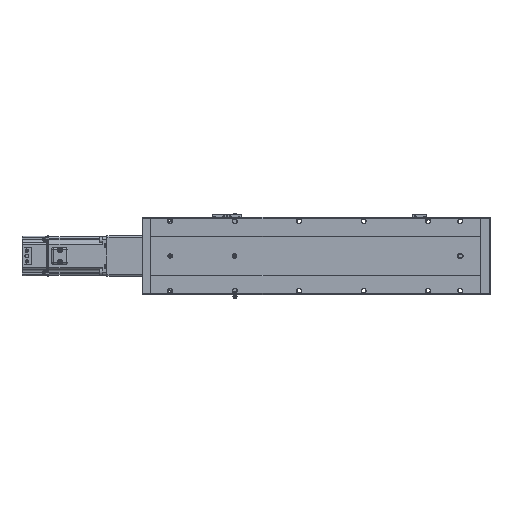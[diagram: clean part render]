
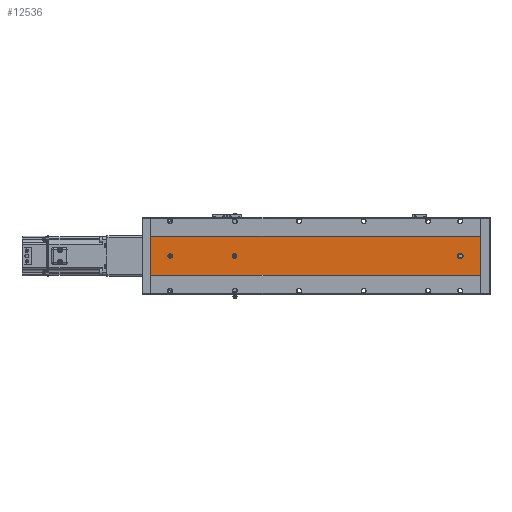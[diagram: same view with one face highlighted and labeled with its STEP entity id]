
A CAD part, front view. The second image highlights one B-rep face of the part: STEP entity #12536.
In plain terms, the highlighted planar face has unit normal (0, -1, 0).
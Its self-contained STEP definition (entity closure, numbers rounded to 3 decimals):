
#991 = AXIS2_PLACEMENT_3D ( 'NONE', #14360, #81812, #69355 ) ;
#1384 = AXIS2_PLACEMENT_3D ( 'NONE', #87798, #73616, #80427 ) ;
#2573 = CARTESIAN_POINT ( 'NONE',  ( -39.892, -52.848, 384.5 ) ) ;
#2947 = CARTESIAN_POINT ( 'NONE',  ( -39.892, -52.848, 30. ) ) ;
#3104 = ORIENTED_EDGE ( 'NONE', *, *, #82354, .T. ) ;
#3569 = CIRCLE ( 'NONE', #23586, 3.5 ) ;
#3918 = VERTEX_POINT ( 'NONE', #2573 ) ;
#4423 = EDGE_CURVE ( 'NONE', #85224, #19472, #58915, .T. ) ;
#4788 = VECTOR ( 'NONE', #18361, 1000. ) ;
#4901 = DIRECTION ( 'NONE',  ( 0., 0., -1. ) ) ;
#5667 = VERTEX_POINT ( 'NONE', #8287 ) ;
#5955 = EDGE_CURVE ( 'NONE', #3918, #5667, #3569, .T. ) ;
#6205 = ORIENTED_EDGE ( 'NONE', *, *, #29895, .T. ) ;
#7268 = DIRECTION ( 'NONE',  ( 0., 0., -1. ) ) ;
#8287 = CARTESIAN_POINT ( 'NONE',  ( -39.892, -52.848, 377.5 ) ) ;
#11189 = EDGE_CURVE ( 'NONE', #60058, #82879, #25017, .T. ) ;
#11685 = ORIENTED_EDGE ( 'NONE', *, *, #44260, .T. ) ;
#11793 = DIRECTION ( 'NONE',  ( 0., 1., 0. ) ) ;
#12536 = ADVANCED_FACE ( 'NONE', ( #24783, #62874, #87194, #82955 ), #80727, .F. ) ;
#13264 = CARTESIAN_POINT ( 'NONE',  ( -36.392, -52.848, 32. ) ) ;
#13491 = CARTESIAN_POINT ( 'NONE',  ( -36.392, -52.848, 30. ) ) ;
#13840 = AXIS2_PLACEMENT_3D ( 'NONE', #57774, #17203, #57472 ) ;
#14360 = CARTESIAN_POINT ( 'NONE',  ( -39.892, -52.848, 32. ) ) ;
#14449 = EDGE_CURVE ( 'NONE', #82879, #39271, #54062, .T. ) ;
#14662 = LINE ( 'NONE', #73172, #78121 ) ;
#14960 = CARTESIAN_POINT ( 'NONE',  ( -39.892, -52.848, 477.5 ) ) ;
#15158 = CARTESIAN_POINT ( 'NONE',  ( -39.892, -52.848, 481. ) ) ;
#15285 = DIRECTION ( 'NONE',  ( 0., 0., 1. ) ) ;
#15851 = ORIENTED_EDGE ( 'NONE', *, *, #77441, .T. ) ;
#17203 = DIRECTION ( 'NONE',  ( 0., 1., 0. ) ) ;
#17212 = EDGE_LOOP ( 'NONE', ( #66720, #11685, #70996, #65112, #30871 ) ) ;
#18115 = CARTESIAN_POINT ( 'NONE',  ( -43.392, -52.848, 32. ) ) ;
#18361 = DIRECTION ( 'NONE',  ( 0., 0., -1. ) ) ;
#19195 = LINE ( 'NONE', #38692, #62543 ) ;
#19472 = VERTEX_POINT ( 'NONE', #52545 ) ;
#19700 = DIRECTION ( 'NONE',  ( 1., 0., 0. ) ) ;
#20001 = LINE ( 'NONE', #27464, #33688 ) ;
#21419 = DIRECTION ( 'NONE',  ( 0., 0., 1. ) ) ;
#22270 = DIRECTION ( 'NONE',  ( 0., 0., 1. ) ) ;
#23586 = AXIS2_PLACEMENT_3D ( 'NONE', #69261, #76337, #22270 ) ;
#24180 = ORIENTED_EDGE ( 'NONE', *, *, #4423, .T. ) ;
#24396 = VERTEX_POINT ( 'NONE', #71199 ) ;
#24767 = LINE ( 'NONE', #79831, #63870 ) ;
#24783 = FACE_BOUND ( 'NONE', #17212, .T. ) ;
#25017 = LINE ( 'NONE', #80141, #4788 ) ;
#25763 = DIRECTION ( 'NONE',  ( 0., 0., 1. ) ) ;
#27190 = CIRCLE ( 'NONE', #36091, 3.5 ) ;
#27431 = CIRCLE ( 'NONE', #47830, 3.5 ) ;
#27464 = CARTESIAN_POINT ( 'NONE',  ( -69.892, -52.848, 511. ) ) ;
#29895 = EDGE_CURVE ( 'NONE', #5667, #3918, #39427, .T. ) ;
#30871 = ORIENTED_EDGE ( 'NONE', *, *, #40778, .T. ) ;
#30900 = CIRCLE ( 'NONE', #991, 3.5 ) ;
#30918 = CARTESIAN_POINT ( 'NONE',  ( -43.392, -52.848, 30. ) ) ;
#32075 = VERTEX_POINT ( 'NONE', #18115 ) ;
#32350 = ORIENTED_EDGE ( 'NONE', *, *, #5955, .T. ) ;
#33688 = VECTOR ( 'NONE', #7268, 1000. ) ;
#34778 = EDGE_LOOP ( 'NONE', ( #6205, #32350 ) ) ;
#36091 = AXIS2_PLACEMENT_3D ( 'NONE', #15158, #82598, #21419 ) ;
#36325 = CARTESIAN_POINT ( 'NONE',  ( -9.892, -52.848, 511. ) ) ;
#37904 = VERTEX_POINT ( 'NONE', #36325 ) ;
#38167 = VERTEX_POINT ( 'NONE', #30918 ) ;
#38454 = EDGE_CURVE ( 'NONE', #24396, #37904, #14662, .T. ) ;
#38692 = CARTESIAN_POINT ( 'NONE',  ( -9.892, -52.848, 511. ) ) ;
#39271 = VERTEX_POINT ( 'NONE', #78009 ) ;
#39427 = CIRCLE ( 'NONE', #43406, 3.5 ) ;
#39540 = AXIS2_PLACEMENT_3D ( 'NONE', #68104, #61885, #82277 ) ;
#40778 = EDGE_CURVE ( 'NONE', #39271, #38167, #27431, .T. ) ;
#43406 = AXIS2_PLACEMENT_3D ( 'NONE', #65671, #11793, #25763 ) ;
#44260 = EDGE_CURVE ( 'NONE', #32075, #60058, #30900, .T. ) ;
#47830 = AXIS2_PLACEMENT_3D ( 'NONE', #2947, #57169, #84894 ) ;
#48686 = CARTESIAN_POINT ( 'NONE',  ( -43.392, -52.848, 511. ) ) ;
#50720 = EDGE_CURVE ( 'NONE', #19472, #85224, #27190, .T. ) ;
#51657 = EDGE_CURVE ( 'NONE', #38167, #32075, #85183, .T. ) ;
#52545 = CARTESIAN_POINT ( 'NONE',  ( -39.892, -52.848, 484.5 ) ) ;
#53532 = DIRECTION ( 'NONE',  ( 1., 0., 0. ) ) ;
#54062 = CIRCLE ( 'NONE', #39540, 3.5 ) ;
#55904 = VERTEX_POINT ( 'NONE', #85695 ) ;
#56076 = ORIENTED_EDGE ( 'NONE', *, *, #70055, .F. ) ;
#57169 = DIRECTION ( 'NONE',  ( 0., 1., 0. ) ) ;
#57426 = EDGE_LOOP ( 'NONE', ( #15851, #56076, #68197, #3104 ) ) ;
#57472 = DIRECTION ( 'NONE',  ( 0., 0., 1. ) ) ;
#57774 = CARTESIAN_POINT ( 'NONE',  ( -39.892, -52.848, 481. ) ) ;
#58915 = CIRCLE ( 'NONE', #13840, 3.5 ) ;
#60058 = VERTEX_POINT ( 'NONE', #13264 ) ;
#60489 = CARTESIAN_POINT ( 'NONE',  ( -69.892, -52.848, 0. ) ) ;
#61885 = DIRECTION ( 'NONE',  ( 0., 1., 0. ) ) ;
#62543 = VECTOR ( 'NONE', #4901, 1000. ) ;
#62874 = FACE_BOUND ( 'NONE', #34778, .T. ) ;
#63870 = VECTOR ( 'NONE', #53532, 1000. ) ;
#65112 = ORIENTED_EDGE ( 'NONE', *, *, #14449, .T. ) ;
#65671 = CARTESIAN_POINT ( 'NONE',  ( -39.892, -52.848, 381. ) ) ;
#66301 = VERTEX_POINT ( 'NONE', #60489 ) ;
#66720 = ORIENTED_EDGE ( 'NONE', *, *, #51657, .T. ) ;
#68104 = CARTESIAN_POINT ( 'NONE',  ( -39.892, -52.848, 30. ) ) ;
#68197 = ORIENTED_EDGE ( 'NONE', *, *, #38454, .F. ) ;
#69261 = CARTESIAN_POINT ( 'NONE',  ( -39.892, -52.848, 381. ) ) ;
#69355 = DIRECTION ( 'NONE',  ( 0., 0., 1. ) ) ;
#70055 = EDGE_CURVE ( 'NONE', #37904, #55904, #19195, .T. ) ;
#70996 = ORIENTED_EDGE ( 'NONE', *, *, #11189, .T. ) ;
#71199 = CARTESIAN_POINT ( 'NONE',  ( -69.892, -52.848, 511. ) ) ;
#73172 = CARTESIAN_POINT ( 'NONE',  ( -69.892, -52.848, 511. ) ) ;
#73616 = DIRECTION ( 'NONE',  ( 0., 1., 0. ) ) ;
#76337 = DIRECTION ( 'NONE',  ( 0., 1., 0. ) ) ;
#76739 = VECTOR ( 'NONE', #15285, 1000. ) ;
#77441 = EDGE_CURVE ( 'NONE', #66301, #55904, #24767, .T. ) ;
#78009 = CARTESIAN_POINT ( 'NONE',  ( -39.892, -52.848, 26.5 ) ) ;
#78121 = VECTOR ( 'NONE', #19700, 1000. ) ;
#79831 = CARTESIAN_POINT ( 'NONE',  ( -69.892, -52.848, 0. ) ) ;
#80141 = CARTESIAN_POINT ( 'NONE',  ( -36.392, -52.848, 511. ) ) ;
#80427 = DIRECTION ( 'NONE',  ( 0., 0., 1. ) ) ;
#80727 = PLANE ( 'NONE',  #1384 ) ;
#81812 = DIRECTION ( 'NONE',  ( 0., 1., 0. ) ) ;
#82015 = ORIENTED_EDGE ( 'NONE', *, *, #50720, .T. ) ;
#82277 = DIRECTION ( 'NONE',  ( 0., 0., 1. ) ) ;
#82354 = EDGE_CURVE ( 'NONE', #24396, #66301, #20001, .T. ) ;
#82598 = DIRECTION ( 'NONE',  ( 0., 1., 0. ) ) ;
#82879 = VERTEX_POINT ( 'NONE', #13491 ) ;
#82955 = FACE_OUTER_BOUND ( 'NONE', #57426, .T. ) ;
#84290 = EDGE_LOOP ( 'NONE', ( #24180, #82015 ) ) ;
#84894 = DIRECTION ( 'NONE',  ( 0., 0., 1. ) ) ;
#85183 = LINE ( 'NONE', #48686, #76739 ) ;
#85224 = VERTEX_POINT ( 'NONE', #14960 ) ;
#85695 = CARTESIAN_POINT ( 'NONE',  ( -9.892, -52.848, 0. ) ) ;
#87194 = FACE_BOUND ( 'NONE', #84290, .T. ) ;
#87798 = CARTESIAN_POINT ( 'NONE',  ( -69.892, -52.848, 511. ) ) ;
